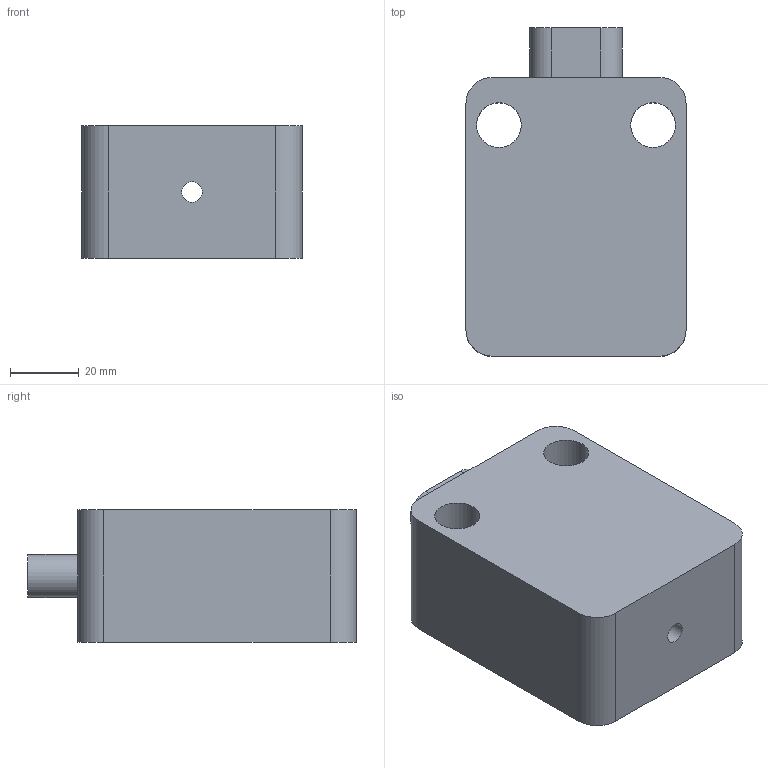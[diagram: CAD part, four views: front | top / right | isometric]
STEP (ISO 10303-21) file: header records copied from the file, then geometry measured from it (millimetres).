
FILE_DESCRIPTION(('Mechanical CAD reference from nasji.com'),'2;1');
FILE_NAME('NASJI.step','',(''),(''),'','NASJI distribution','');
FILE_SCHEMA(('AUTOMOTIVE_DESIGN { 1 0 10303 214 1 1 1 1 }'));
Length unit declared in the file: millimetre
Products named in the file (1): Open CASCADE STEP translator 7.8 181
Bounding box: 63.97 x 95.5 x 38.5 mm (x, y, z)
Volume: 189040.7 mm3; surface area: 26267 mm2
Topology: 1 solids, 1 shells, 18 faces, 45 edges, 30 vertices
Faces by surface type: plane 9, cylinder 9
Full cylindrical faces by diameter (mm): 6 x1, 13 x2
Entity records: 1187 total; most frequent: CARTESIAN_POINT 250, DIRECTION 180, LINE 99, VECTOR 99, ORIENTED_EDGE 90, PCURVE 90, DEFINITIONAL_REPRESENTATION 90, EDGE_CURVE 45
